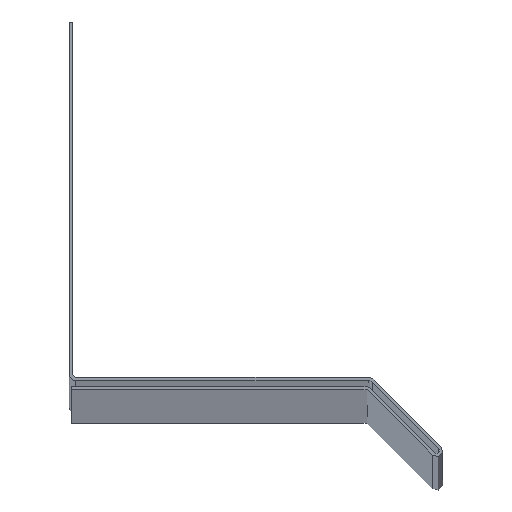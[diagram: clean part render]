
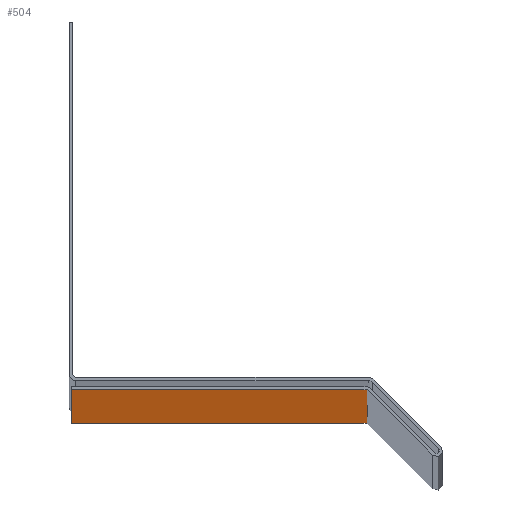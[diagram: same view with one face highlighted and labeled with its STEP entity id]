
A CAD part, top view. The second image highlights one B-rep face of the part: STEP entity #504.
In plain terms, the highlighted planar face has unit normal (0, -1, 0).
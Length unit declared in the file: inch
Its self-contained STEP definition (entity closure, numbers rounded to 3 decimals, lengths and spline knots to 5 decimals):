
#24 = VERTEX_POINT ( 'NONE', #634 ) ;
#30 = AXIS2_PLACEMENT_3D ( 'NONE', #493, #264, #728 ) ;
#60 = LINE ( 'NONE', #654, #246 ) ;
#65 = ORIENTED_EDGE ( 'NONE', *, *, #629, .F. ) ;
#77 = ORIENTED_EDGE ( 'NONE', *, *, #480, .T. ) ;
#97 = ORIENTED_EDGE ( 'NONE', *, *, #334, .T. ) ;
#138 = FACE_OUTER_BOUND ( 'NONE', #759, .T. ) ;
#163 = LINE ( 'NONE', #594, #379 ) ;
#212 = CARTESIAN_POINT ( 'NONE',  ( 1.86747, -0.05819, 0. ) ) ;
#227 = VERTEX_POINT ( 'NONE', #212 ) ;
#246 = VECTOR ( 'NONE', #390, 39.37008 ) ;
#264 = DIRECTION ( 'NONE',  ( 0., -1., 0. ) ) ;
#271 = CARTESIAN_POINT ( 'NONE',  ( 1.86747, -0.05819, 120. ) ) ;
#294 = PLANE ( 'NONE',  #30 ) ;
#334 = EDGE_CURVE ( 'NONE', #422, #441, #664, .T. ) ;
#379 = VECTOR ( 'NONE', #512, 39.37008 ) ;
#390 = DIRECTION ( 'NONE',  ( -1., 0., 0. ) ) ;
#422 = VERTEX_POINT ( 'NONE', #271 ) ;
#441 = VERTEX_POINT ( 'NONE', #711 ) ;
#446 = LINE ( 'NONE', #804, #545 ) ;
#480 = EDGE_CURVE ( 'NONE', #441, #24, #446, .T. ) ;
#493 = CARTESIAN_POINT ( 'NONE',  ( 1.86747, -0.05819, 120. ) ) ;
#504 = ADVANCED_FACE ( 'NONE', ( #138 ), #294, .T. ) ;
#510 = EDGE_CURVE ( 'NONE', #422, #227, #163, .T. ) ;
#512 = DIRECTION ( 'NONE',  ( 0., 0., -1. ) ) ;
#545 = VECTOR ( 'NONE', #783, 39.37008 ) ;
#571 = ORIENTED_EDGE ( 'NONE', *, *, #510, .F. ) ;
#594 = CARTESIAN_POINT ( 'NONE',  ( 1.86747, -0.05819, 120. ) ) ;
#611 = CARTESIAN_POINT ( 'NONE',  ( 1.86747, -0.05819, 120. ) ) ;
#629 = EDGE_CURVE ( 'NONE', #227, #24, #60, .T. ) ;
#634 = CARTESIAN_POINT ( 'NONE',  ( 0.0143, -0.05819, 0. ) ) ;
#651 = DIRECTION ( 'NONE',  ( -1., 0., 0. ) ) ;
#654 = CARTESIAN_POINT ( 'NONE',  ( 1.86747, -0.05819, 0. ) ) ;
#664 = LINE ( 'NONE', #611, #784 ) ;
#711 = CARTESIAN_POINT ( 'NONE',  ( 0.0143, -0.05819, 120. ) ) ;
#728 = DIRECTION ( 'NONE',  ( 1., 0., 0. ) ) ;
#759 = EDGE_LOOP ( 'NONE', ( #65, #571, #97, #77 ) ) ;
#783 = DIRECTION ( 'NONE',  ( 0., 0., -1. ) ) ;
#784 = VECTOR ( 'NONE', #651, 39.37008 ) ;
#804 = CARTESIAN_POINT ( 'NONE',  ( 0.0143, -0.05819, 120. ) ) ;
